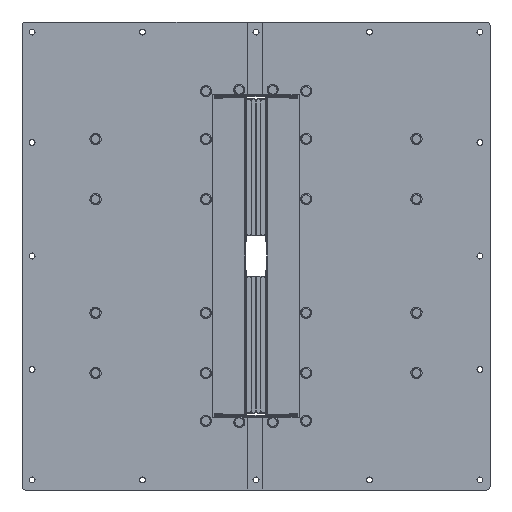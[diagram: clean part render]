
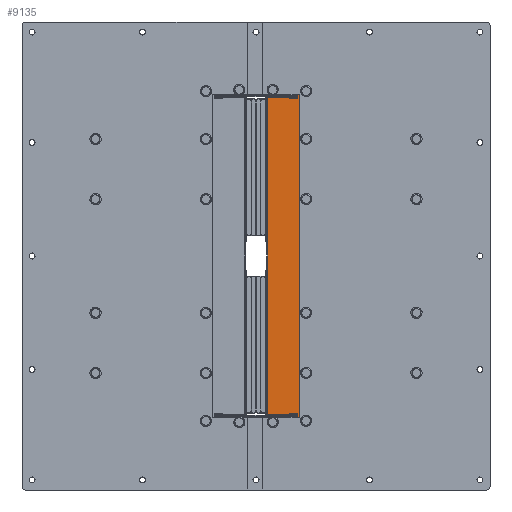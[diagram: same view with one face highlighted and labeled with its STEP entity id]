
A CAD part, left-side view. The second image highlights one B-rep face of the part: STEP entity #9135.
In plain terms, the highlighted planar face has unit normal (-1, 0, 0).
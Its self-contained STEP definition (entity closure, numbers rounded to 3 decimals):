
#8350=AXIS2_PLACEMENT_3D('Plane Axis2P3D',#8347,#8348,#8349) ;
#8484=AXIS2_PLACEMENT_3D('Circle Axis2P3D',#8482,#8483,$) ;
#8546=AXIS2_PLACEMENT_3D('Circle Axis2P3D',#8544,#8545,$) ;
#8815=AXIS2_PLACEMENT_3D('Circle Axis2P3D',#8813,#8814,$) ;
#8863=AXIS2_PLACEMENT_3D('Circle Axis2P3D',#8861,#8862,$) ;
#9029=AXIS2_PLACEMENT_3D('Circle Axis2P3D',#9027,#9028,$) ;
#9038=AXIS2_PLACEMENT_3D('Circle Axis2P3D',#9036,#9037,$) ;
#9047=AXIS2_PLACEMENT_3D('Circle Axis2P3D',#9045,#9046,$) ;
#9056=AXIS2_PLACEMENT_3D('Circle Axis2P3D',#9054,#9055,$) ;
#9065=AXIS2_PLACEMENT_3D('Circle Axis2P3D',#9063,#9064,$) ;
#9074=AXIS2_PLACEMENT_3D('Circle Axis2P3D',#9072,#9073,$) ;
#9083=AXIS2_PLACEMENT_3D('Circle Axis2P3D',#9081,#9082,$) ;
#9092=AXIS2_PLACEMENT_3D('Circle Axis2P3D',#9090,#9091,$) ;
#9101=AXIS2_PLACEMENT_3D('Circle Axis2P3D',#9099,#9100,$) ;
#9110=AXIS2_PLACEMENT_3D('Circle Axis2P3D',#9108,#9109,$) ;
#9119=AXIS2_PLACEMENT_3D('Circle Axis2P3D',#9117,#9118,$) ;
#9128=AXIS2_PLACEMENT_3D('Circle Axis2P3D',#9126,#9127,$) ;
#8347=CARTESIAN_POINT('Axis2P3D Location',(0.,0.,0.)) ;
#8388=CARTESIAN_POINT('Vertex',(0.,-60.,238.5)) ;
#8393=CARTESIAN_POINT('Line Origine',(0.,-60.,249.25)) ;
#8397=CARTESIAN_POINT('Vertex',(0.,-60.,260.)) ;
#8451=CARTESIAN_POINT('Line Origine',(0.,-69.,260.)) ;
#8455=CARTESIAN_POINT('Vertex',(0.,-78.,260.)) ;
#8482=CARTESIAN_POINT('Axis2P3D Location',(0.,-78.,255.)) ;
#8486=CARTESIAN_POINT('Vertex',(0.,-83.,255.)) ;
#8513=CARTESIAN_POINT('Line Origine',(0.,-83.,0.)) ;
#8517=CARTESIAN_POINT('Vertex',(0.,-83.,-255.)) ;
#8544=CARTESIAN_POINT('Axis2P3D Location',(0.,-78.,-255.)) ;
#8548=CARTESIAN_POINT('Vertex',(0.,-78.,-260.)) ;
#8575=CARTESIAN_POINT('Line Origine',(0.,-69.,-260.)) ;
#8579=CARTESIAN_POINT('Vertex',(0.,-60.,-260.)) ;
#8601=CARTESIAN_POINT('Line Origine',(0.,-60.,-249.25)) ;
#8605=CARTESIAN_POINT('Vertex',(0.,-60.,-238.5)) ;
#8640=CARTESIAN_POINT('Vertex',(0.,-60.,237.)) ;
#8643=CARTESIAN_POINT('Line Origine',(0.,-60.,237.75)) ;
#8676=CARTESIAN_POINT('Vertex',(0.,-18.22,237.)) ;
#8679=CARTESIAN_POINT('Line Origine',(0.,-39.11,237.)) ;
#8810=CARTESIAN_POINT('Vertex',(0.,-17.72,236.5)) ;
#8813=CARTESIAN_POINT('Axis2P3D Location',(0.,-18.22,236.5)) ;
#8834=CARTESIAN_POINT('Vertex',(0.,-17.72,-236.5)) ;
#8837=CARTESIAN_POINT('Line Origine',(0.,-17.72,0.)) ;
#8858=CARTESIAN_POINT('Vertex',(0.,-18.22,-237.)) ;
#8861=CARTESIAN_POINT('Axis2P3D Location',(0.,-18.22,-236.5)) ;
#8882=CARTESIAN_POINT('Vertex',(0.,-60.,-237.)) ;
#8885=CARTESIAN_POINT('Line Origine',(0.,-39.11,-237.)) ;
#8902=CARTESIAN_POINT('Line Origine',(0.,-60.,-237.75)) ;
#9027=CARTESIAN_POINT('Axis2P3D Location',(0.,-73.5,175.)) ;
#9031=CARTESIAN_POINT('Vertex',(0.,-79.,175.)) ;
#9033=CARTESIAN_POINT('Vertex',(0.,-68.,175.)) ;
#9036=CARTESIAN_POINT('Axis2P3D Location',(0.,-73.5,175.)) ;
#9045=CARTESIAN_POINT('Axis2P3D Location',(0.,-73.5,85.)) ;
#9049=CARTESIAN_POINT('Vertex',(0.,-79.,85.)) ;
#9051=CARTESIAN_POINT('Vertex',(0.,-68.,85.)) ;
#9054=CARTESIAN_POINT('Axis2P3D Location',(0.,-73.5,85.)) ;
#9063=CARTESIAN_POINT('Axis2P3D Location',(0.,-73.5,-85.)) ;
#9067=CARTESIAN_POINT('Vertex',(0.,-79.,-85.)) ;
#9069=CARTESIAN_POINT('Vertex',(0.,-68.,-85.)) ;
#9072=CARTESIAN_POINT('Axis2P3D Location',(0.,-73.5,-85.)) ;
#9081=CARTESIAN_POINT('Axis2P3D Location',(0.,-73.5,-175.)) ;
#9085=CARTESIAN_POINT('Vertex',(0.,-79.,-175.)) ;
#9087=CARTESIAN_POINT('Vertex',(0.,-68.,-175.)) ;
#9090=CARTESIAN_POINT('Axis2P3D Location',(0.,-73.5,-175.)) ;
#9099=CARTESIAN_POINT('Axis2P3D Location',(0.,-73.5,246.5)) ;
#9103=CARTESIAN_POINT('Vertex',(0.,-79.,246.5)) ;
#9105=CARTESIAN_POINT('Vertex',(0.,-68.,246.5)) ;
#9108=CARTESIAN_POINT('Axis2P3D Location',(0.,-73.5,246.5)) ;
#9117=CARTESIAN_POINT('Axis2P3D Location',(0.,-73.5,-246.5)) ;
#9121=CARTESIAN_POINT('Vertex',(0.,-79.,-246.5)) ;
#9123=CARTESIAN_POINT('Vertex',(0.,-68.,-246.5)) ;
#9126=CARTESIAN_POINT('Axis2P3D Location',(0.,-73.5,-246.5)) ;
#8348=DIRECTION('Axis2P3D Direction',(1.,0.,0.)) ;
#8349=DIRECTION('Axis2P3D XDirection',(0.,1.,0.)) ;
#8394=DIRECTION('Vector Direction',(0.,0.,-1.)) ;
#8452=DIRECTION('Vector Direction',(0.,-1.,0.)) ;
#8483=DIRECTION('Axis2P3D Direction',(1.,0.,0.)) ;
#8514=DIRECTION('Vector Direction',(0.,0.,1.)) ;
#8545=DIRECTION('Axis2P3D Direction',(1.,0.,0.)) ;
#8576=DIRECTION('Vector Direction',(0.,1.,0.)) ;
#8602=DIRECTION('Vector Direction',(0.,0.,-1.)) ;
#8644=DIRECTION('Vector Direction',(0.,0.,-1.)) ;
#8680=DIRECTION('Vector Direction',(0.,1.,0.)) ;
#8814=DIRECTION('Axis2P3D Direction',(1.,0.,0.)) ;
#8838=DIRECTION('Vector Direction',(0.,0.,1.)) ;
#8862=DIRECTION('Axis2P3D Direction',(1.,0.,0.)) ;
#8886=DIRECTION('Vector Direction',(0.,-1.,0.)) ;
#8903=DIRECTION('Vector Direction',(0.,0.,-1.)) ;
#9028=DIRECTION('Axis2P3D Direction',(1.,0.,0.)) ;
#9037=DIRECTION('Axis2P3D Direction',(1.,0.,0.)) ;
#9046=DIRECTION('Axis2P3D Direction',(1.,0.,0.)) ;
#9055=DIRECTION('Axis2P3D Direction',(1.,0.,0.)) ;
#9064=DIRECTION('Axis2P3D Direction',(1.,0.,0.)) ;
#9073=DIRECTION('Axis2P3D Direction',(1.,0.,0.)) ;
#9082=DIRECTION('Axis2P3D Direction',(1.,0.,0.)) ;
#9091=DIRECTION('Axis2P3D Direction',(1.,0.,0.)) ;
#9100=DIRECTION('Axis2P3D Direction',(1.,0.,0.)) ;
#9109=DIRECTION('Axis2P3D Direction',(1.,0.,0.)) ;
#9118=DIRECTION('Axis2P3D Direction',(1.,0.,0.)) ;
#9127=DIRECTION('Axis2P3D Direction',(1.,0.,0.)) ;
#8395=VECTOR('Line Direction',#8394,1.) ;
#8453=VECTOR('Line Direction',#8452,1.) ;
#8515=VECTOR('Line Direction',#8514,1.) ;
#8577=VECTOR('Line Direction',#8576,1.) ;
#8603=VECTOR('Line Direction',#8602,1.) ;
#8645=VECTOR('Line Direction',#8644,1.) ;
#8681=VECTOR('Line Direction',#8680,1.) ;
#8839=VECTOR('Line Direction',#8838,1.) ;
#8887=VECTOR('Line Direction',#8886,1.) ;
#8904=VECTOR('Line Direction',#8903,1.) ;
#9012=ORIENTED_EDGE('',*,*,#8647,.T.) ;
#9013=ORIENTED_EDGE('',*,*,#8683,.T.) ;
#9014=ORIENTED_EDGE('',*,*,#8817,.T.) ;
#9015=ORIENTED_EDGE('',*,*,#8841,.T.) ;
#9016=ORIENTED_EDGE('',*,*,#8865,.T.) ;
#9017=ORIENTED_EDGE('',*,*,#8889,.T.) ;
#9018=ORIENTED_EDGE('',*,*,#8906,.T.) ;
#9019=ORIENTED_EDGE('',*,*,#8607,.F.) ;
#9020=ORIENTED_EDGE('',*,*,#8581,.F.) ;
#9021=ORIENTED_EDGE('',*,*,#8550,.F.) ;
#9022=ORIENTED_EDGE('',*,*,#8519,.F.) ;
#9023=ORIENTED_EDGE('',*,*,#8488,.F.) ;
#9024=ORIENTED_EDGE('',*,*,#8457,.F.) ;
#9025=ORIENTED_EDGE('',*,*,#8399,.F.) ;
#9042=ORIENTED_EDGE('',*,*,#9035,.T.) ;
#9043=ORIENTED_EDGE('',*,*,#9040,.T.) ;
#9060=ORIENTED_EDGE('',*,*,#9053,.T.) ;
#9061=ORIENTED_EDGE('',*,*,#9058,.T.) ;
#9078=ORIENTED_EDGE('',*,*,#9071,.T.) ;
#9079=ORIENTED_EDGE('',*,*,#9076,.T.) ;
#9096=ORIENTED_EDGE('',*,*,#9089,.T.) ;
#9097=ORIENTED_EDGE('',*,*,#9094,.T.) ;
#9114=ORIENTED_EDGE('',*,*,#9107,.T.) ;
#9115=ORIENTED_EDGE('',*,*,#9112,.T.) ;
#9132=ORIENTED_EDGE('',*,*,#9125,.T.) ;
#9133=ORIENTED_EDGE('',*,*,#9130,.T.) ;
#9044=FACE_BOUND('',#9041,.T.) ;
#9062=FACE_BOUND('',#9059,.T.) ;
#9080=FACE_BOUND('',#9077,.T.) ;
#9098=FACE_BOUND('',#9095,.T.) ;
#9116=FACE_BOUND('',#9113,.T.) ;
#9134=FACE_BOUND('',#9131,.T.) ;
#9135=ADVANCED_FACE('Laterale(L3)',(#9026,#9044,#9062,#9080,#9098,#9116,#9134),#8351,.F.) ;
#8485=CIRCLE('generated circle',#8484,5.) ;
#8547=CIRCLE('generated circle',#8546,5.) ;
#8816=CIRCLE('generated circle',#8815,0.5) ;
#8864=CIRCLE('generated circle',#8863,0.5) ;
#9030=CIRCLE('generated circle',#9029,5.5) ;
#9039=CIRCLE('generated circle',#9038,5.5) ;
#9048=CIRCLE('generated circle',#9047,5.5) ;
#9057=CIRCLE('generated circle',#9056,5.5) ;
#9066=CIRCLE('generated circle',#9065,5.5) ;
#9075=CIRCLE('generated circle',#9074,5.5) ;
#9084=CIRCLE('generated circle',#9083,5.5) ;
#9093=CIRCLE('generated circle',#9092,5.5) ;
#9102=CIRCLE('generated circle',#9101,5.5) ;
#9111=CIRCLE('generated circle',#9110,5.5) ;
#9120=CIRCLE('generated circle',#9119,5.5) ;
#9129=CIRCLE('generated circle',#9128,5.5) ;
#8399=EDGE_CURVE('',#8389,#8398,#8396,.F.) ;
#8457=EDGE_CURVE('',#8398,#8456,#8454,.T.) ;
#8488=EDGE_CURVE('',#8456,#8487,#8485,.T.) ;
#8519=EDGE_CURVE('',#8487,#8518,#8516,.F.) ;
#8550=EDGE_CURVE('',#8518,#8549,#8547,.T.) ;
#8581=EDGE_CURVE('',#8549,#8580,#8578,.T.) ;
#8607=EDGE_CURVE('',#8580,#8606,#8604,.F.) ;
#8647=EDGE_CURVE('',#8389,#8641,#8646,.T.) ;
#8683=EDGE_CURVE('',#8641,#8677,#8682,.T.) ;
#8817=EDGE_CURVE('',#8677,#8811,#8816,.F.) ;
#8841=EDGE_CURVE('',#8811,#8835,#8840,.F.) ;
#8865=EDGE_CURVE('',#8835,#8859,#8864,.F.) ;
#8889=EDGE_CURVE('',#8859,#8883,#8888,.T.) ;
#8906=EDGE_CURVE('',#8883,#8606,#8905,.T.) ;
#9035=EDGE_CURVE('',#9032,#9034,#9030,.T.) ;
#9040=EDGE_CURVE('',#9034,#9032,#9039,.T.) ;
#9053=EDGE_CURVE('',#9050,#9052,#9048,.T.) ;
#9058=EDGE_CURVE('',#9052,#9050,#9057,.T.) ;
#9071=EDGE_CURVE('',#9068,#9070,#9066,.T.) ;
#9076=EDGE_CURVE('',#9070,#9068,#9075,.T.) ;
#9089=EDGE_CURVE('',#9086,#9088,#9084,.T.) ;
#9094=EDGE_CURVE('',#9088,#9086,#9093,.T.) ;
#9107=EDGE_CURVE('',#9104,#9106,#9102,.T.) ;
#9112=EDGE_CURVE('',#9106,#9104,#9111,.T.) ;
#9125=EDGE_CURVE('',#9122,#9124,#9120,.T.) ;
#9130=EDGE_CURVE('',#9124,#9122,#9129,.T.) ;
#9011=EDGE_LOOP('',(#9012,#9013,#9014,#9015,#9016,#9017,#9018,#9019,#9020,#9021,#9022,#9023,#9024,#9025)) ;
#9041=EDGE_LOOP('',(#9042,#9043)) ;
#9059=EDGE_LOOP('',(#9060,#9061)) ;
#9077=EDGE_LOOP('',(#9078,#9079)) ;
#9095=EDGE_LOOP('',(#9096,#9097)) ;
#9113=EDGE_LOOP('',(#9114,#9115)) ;
#9131=EDGE_LOOP('',(#9132,#9133)) ;
#9026=FACE_OUTER_BOUND('',#9011,.T.) ;
#8396=LINE('Line',#8393,#8395) ;
#8454=LINE('Line',#8451,#8453) ;
#8516=LINE('Line',#8513,#8515) ;
#8578=LINE('Line',#8575,#8577) ;
#8604=LINE('Line',#8601,#8603) ;
#8646=LINE('Line',#8643,#8645) ;
#8682=LINE('Line',#8679,#8681) ;
#8840=LINE('Line',#8837,#8839) ;
#8888=LINE('Line',#8885,#8887) ;
#8905=LINE('Line',#8902,#8904) ;
#8351=PLANE('',#8350) ;
#8389=VERTEX_POINT('',#8388) ;
#8398=VERTEX_POINT('',#8397) ;
#8456=VERTEX_POINT('',#8455) ;
#8487=VERTEX_POINT('',#8486) ;
#8518=VERTEX_POINT('',#8517) ;
#8549=VERTEX_POINT('',#8548) ;
#8580=VERTEX_POINT('',#8579) ;
#8606=VERTEX_POINT('',#8605) ;
#8641=VERTEX_POINT('',#8640) ;
#8677=VERTEX_POINT('',#8676) ;
#8811=VERTEX_POINT('',#8810) ;
#8835=VERTEX_POINT('',#8834) ;
#8859=VERTEX_POINT('',#8858) ;
#8883=VERTEX_POINT('',#8882) ;
#9032=VERTEX_POINT('',#9031) ;
#9034=VERTEX_POINT('',#9033) ;
#9050=VERTEX_POINT('',#9049) ;
#9052=VERTEX_POINT('',#9051) ;
#9068=VERTEX_POINT('',#9067) ;
#9070=VERTEX_POINT('',#9069) ;
#9086=VERTEX_POINT('',#9085) ;
#9088=VERTEX_POINT('',#9087) ;
#9104=VERTEX_POINT('',#9103) ;
#9106=VERTEX_POINT('',#9105) ;
#9122=VERTEX_POINT('',#9121) ;
#9124=VERTEX_POINT('',#9123) ;
